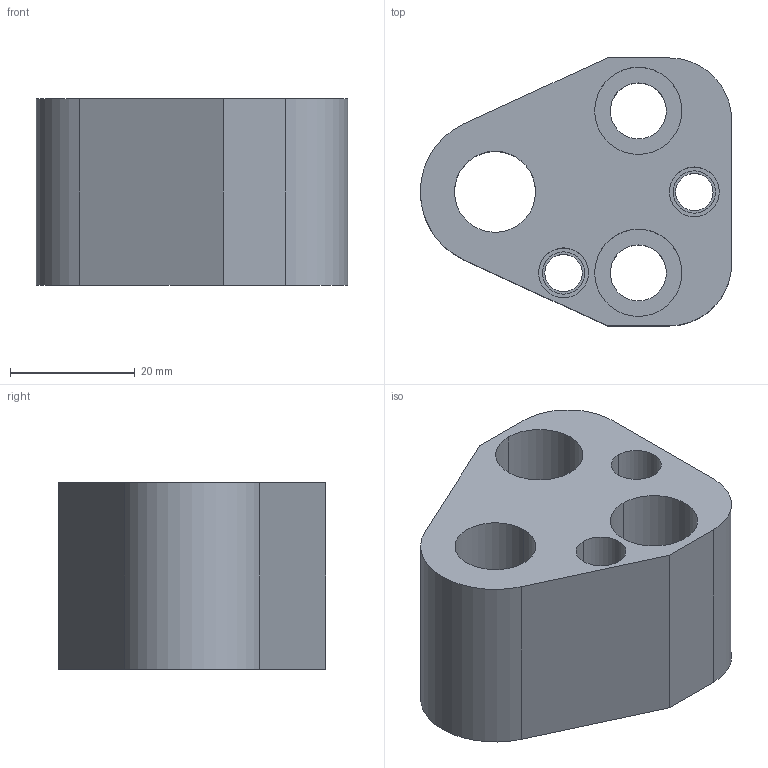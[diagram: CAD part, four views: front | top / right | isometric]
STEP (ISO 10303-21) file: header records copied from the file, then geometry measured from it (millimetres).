
FILE_DESCRIPTION(/* description */ (''),/* implementation_level */ '2;1');
FILE_NAME(/* name */ '3d_fp-an13_03762_r00.stp',/* time_stamp */ '2011-01-10T14:15:37+09:00',/* author */ ('MISUMI'),/* organization */ (''),/* preprocessor_version */ 'ST-DEVELOPER v11',/* originating_system */ 'UGS - NX 5.0',/* authorisation */ '');
FILE_SCHEMA (('CONFIG_CONTROL_DESIGN'));
Length unit declared in the file: millimetre
Products named in the file (1): 3d_fp-an13_03762_r00
Bounding box: 50 x 43 x 30 mm (x, y, z)
Volume: 36987.2 mm3; surface area: 11970.5 mm2
Topology: 1 solids, 1 shells, 43 faces, 100 edges, 66 vertices
Faces by surface type: cylinder 27, plane 14, cone 2
Entity records: 1360 total; most frequent: DIRECTION 244, CARTESIAN_POINT 210, ORIENTED_EDGE 200, EDGE_CURVE 100, AXIS2_PLACEMENT_3D 100, VERTEX_POINT 66, EDGE_LOOP 60, CIRCLE 56
